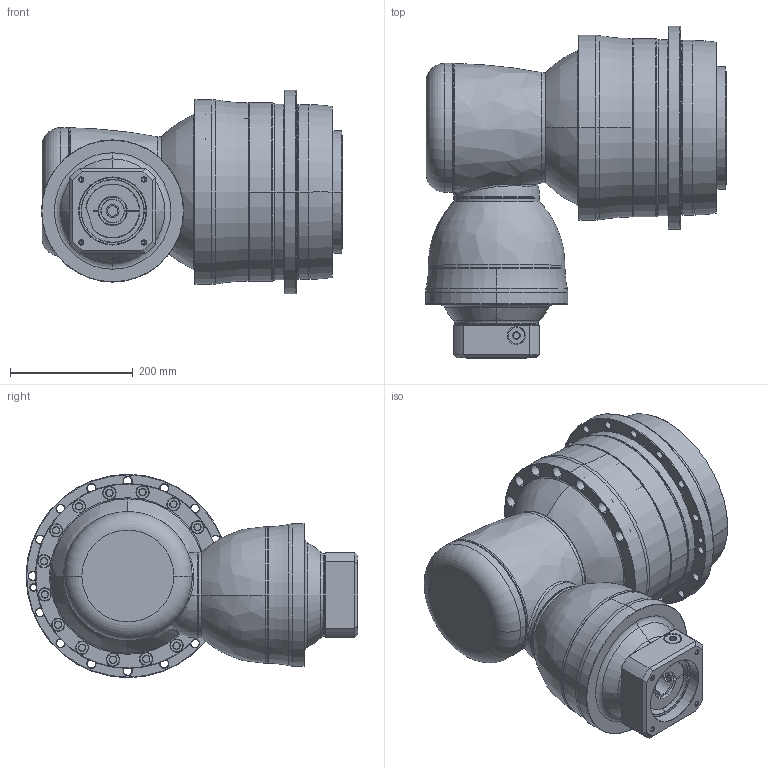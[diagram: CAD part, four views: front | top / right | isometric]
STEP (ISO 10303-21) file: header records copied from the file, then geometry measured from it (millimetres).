
FILE_DESCRIPTION((''),'2;1');
FILE_NAME('AHK285_4ST_38-P0409900101_ASM','2016-08-23T',('d01943'),(''),'PRO/ENGINEER BY PARAMETRIC TECHNOLOGY CORPORATION, 2008410','PRO/ENGINEER BY PARAMETRIC TECHNOLOGY CORPORATION, 2008410','');
FILE_SCHEMA(('CONFIG_CONTROL_DESIGN'));
Length unit declared in the file: millimetre
Products named in the file (12): P1008600002; P1832800001; P0278800003; P0359800003; P1315600001; P1007600001; P1317600401; P0409900101; P0503900012; P0912504201; 21711422019; AHK285_4ST_38-P0409900101_ASM
Assembly tree (11 placements, depth 2):
  AHK285_4ST_38-P0409900101_ASM
    P1008600002
    P1832800001
    P0278800003
    P0359800003
    P1315600001
    P1007600001
    P1317600401
    P0409900101
    P0503900012
    P0912504201
    21711422019
Bounding box: 491 x 541.5 x 332 mm (x, y, z)
Volume: 23704848.3 mm3; surface area: 1655140.5 mm2
Topology: 12 solids, 12 shells, 1060 faces, 2389 edges, 1379 vertices
Faces by surface type: cone 380, cylinder 370, plane 143, torus 126, bspline 39, sphere 2
Entity records: 36149 total; most frequent: CARTESIAN_POINT 11887, DIRECTION 5578, ORIENTED_EDGE 4634, AXIS2_PLACEMENT_3D 2378, EDGE_CURVE 2317, VERTEX_POINT 1379, CIRCLE 1334, EDGE_LOOP 1256
